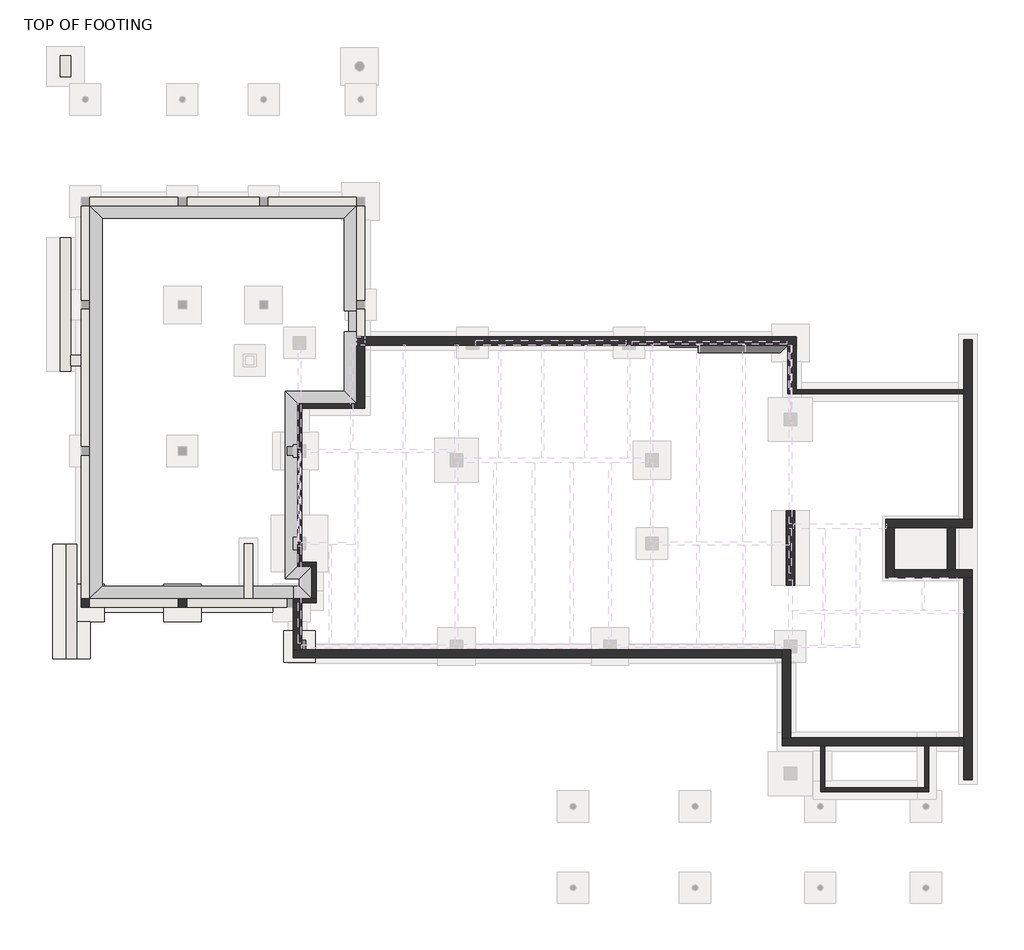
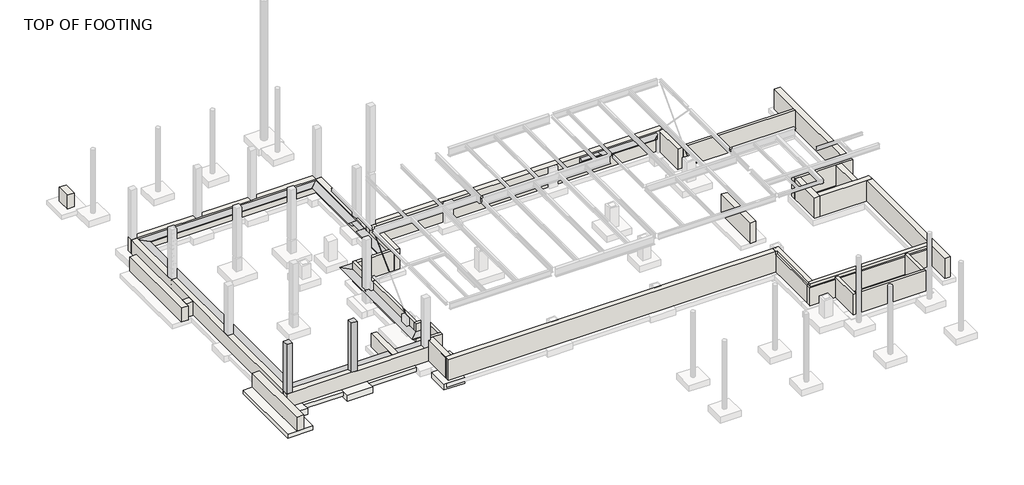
# One storey, part 1 of 5: 32 walls, 8 proxies, 3 slabs, 2 columns, 2 footings.
"""IFC4 building model written with IfcOpenShell, lengths in millimetres."""

from ifc_helpers import new_model, si_unit, frame, origin, place, context, project, spatial, polyline, outline, extrude, faceted_brep, element, save

model = new_model("IFC4")

# Units and contexts
model_context = context("Model", 3, world=origin())
ifc_project = project(units=[si_unit("LENGTHUNIT", "METRE", prefix="MILLI")], contexts=[model_context])

# Site, building, storey
site = spatial("IfcSite", under=ifc_project)
building = spatial("IfcBuilding", under=site)
storey = spatial("IfcBuildingStorey", under=building, Name="TOP OF FOOTING", Elevation=28905.2)

# Proxies
placement = place(None, origin())
element("IfcBuildingElementProxy", 1, Name="Thickened 24\" x 12\"", ObjectType="Thickened 24\" x 12\"", at=placement, inside=storey, context=model_context, shape_type="Brep", body=[
    faceted_brep([(-20560.3454607, 14520.2695005, 29565.6), (-20560.3454607, 14520.2695005, 29870.4), (-19950.7454607, 13910.6695005, 29870.4), (-20255.5454607, 14215.4695005, 29565.6), (-20560.3454607, -4618.6304995, 29565.6), (-20255.5454607, -4313.8304995, 29565.6), (-19950.7454607, -4009.0304995, 29870.4), (-20560.3454607, -4618.6304995, 29870.4)], [[[0, 1, 2, 3]], [[4, 5, 6, 7]], [[1, 0, 4, 7]], [[2, 1, 7, 6]], [[3, 2, 6, 5]], [[0, 3, 5, 4]]]),
])
element("IfcBuildingElementProxy", 2, Name="Thickened 24\" x 12\"", ObjectType="Thickened 24\" x 12\"", at=placement, inside=storey, context=model_context, shape_type="Brep", body=[
    faceted_brep([(-7555.5454607, 9402.1695005, 29565.6), (-7555.5454607, 9402.1695005, 29870.4), (-7923.8454607, 9402.1695005, 29870.4), (-8165.1454607, 9402.1695005, 29870.4), (-7860.3454607, 9402.1695005, 29565.6), (-7619.0454607, 9402.1695005, 29565.6), (-7555.5454607, 14520.2695005, 29565.6), (-7860.3454607, 14215.4695005, 29565.6), (-8165.1454607, 13910.6695005, 29870.4), (-7555.5454607, 14520.2695005, 29870.4)], [[[0, 1, 2, 3, 4, 5]], [[6, 7, 8, 9]], [[1, 0, 6, 9]], [[3, 2, 1, 9, 8]], [[4, 3, 8, 7]], [[0, 5, 4, 7, 6]]]),
])
element("IfcBuildingElementProxy", 3, Name="Thickened 24\" x 12\"", ObjectType="Thickened 24\" x 12\"", at=placement, inside=storey, context=model_context, shape_type="Brep", body=[
    faceted_brep([(-20560.3454607, -4618.6304995, 29565.6), (-20560.3454607, -4618.6304995, 29870.4), (-19950.7454607, -4009.0304995, 29870.4), (-20255.5454607, -4313.8304995, 29565.6), (-10632.1204607, -4618.6304995, 29565.6), (-10632.1204607, -4313.8304995, 29565.6), (-10632.1204607, -4009.0304995, 29870.4), (-10632.1204607, -4618.6304995, 29870.4)], [[[0, 1, 2, 3]], [[4, 5, 6, 7]], [[1, 0, 4, 7]], [[2, 1, 7, 6]], [[3, 2, 6, 5]], [[0, 3, 5, 4]]]),
])
element("IfcBuildingElementProxy", 4, Name="Thickened 24\" x 12\"", ObjectType="Thickened 24\" x 12\"", at=placement, inside=storey, context=model_context, shape_type="Brep", body=[
    faceted_brep([(-10428.9204607, -3040.6554995, 29565.6), (-10428.9204607, -3040.6554995, 29870.4), (-11038.5204607, -3650.2554995, 29870.4), (-10733.7204607, -3345.4554995, 29565.6), (-10428.9204607, 4865.0945005, 29565.6), (-10428.9204607, 4865.0945005, 29870.4), (-11038.5204607, 5474.6945005, 29870.4), (-10733.7204607, 5169.8945005, 29565.6), (-7555.5454607, 4865.0945005, 29565.6), (-7860.3454607, 5169.8945005, 29565.6), (-8165.1454607, 5474.6945005, 29870.4), (-7555.5454607, 4865.0945005, 29870.4)], [[[0, 1, 2, 3]], [[1, 0, 4, 5]], [[2, 1, 5, 6]], [[3, 2, 6, 7]], [[0, 3, 7, 4]], [[8, 9, 10, 11]], [[5, 4, 8, 11]], [[6, 5, 11, 10]], [[7, 6, 10, 9]], [[4, 7, 9, 8]]]),
])
element("IfcBuildingElementProxy", 5, Name="Thickened 24\" x 12\"", ObjectType="Thickened 24\" x 12\"", at=placement, inside=storey, context=model_context, shape_type="Brep", body=[
    faceted_brep([(13450.2545393, 7725.7695005, 30048.2), (13450.2545393, 7725.7695005, 30353.0), (12840.6545393, 7116.1695005, 30353.0), (13145.4545393, 7420.9695005, 30048.2), (9071.9295393, 7725.7695005, 30353.0), (9071.9295393, 7725.7695005, 30048.2), (9071.9295393, 7420.9695005, 30048.2), (9071.9295393, 7116.1695005, 30353.0)], [[[0, 1, 2, 3]], [[4, 5, 6, 7]], [[1, 0, 5, 4]], [[2, 1, 4, 7]], [[3, 2, 7, 6]], [[0, 3, 6, 5]]]),
    faceted_brep([(9071.9295393, 7992.4695005, 30048.2), (9071.9295393, 7992.4695005, 30353.0), (9071.9295393, 7725.7695005, 30353.0), (9071.9295393, 7382.8695005, 30353.0), (9071.9295393, 7687.6695005, 30048.2), (7700.3295393, 7992.4695005, 30353.0), (7700.3295393, 7992.4695005, 30048.2), (7700.3295393, 7725.7695005, 30048.2), (7700.3295393, 7687.6695005, 30048.2), (7700.3295393, 7382.8695005, 30353.0), (7700.3295393, 7725.7695005, 30353.0)], [[[0, 1, 2, 3, 4]], [[5, 6, 7, 8, 9, 10]], [[1, 0, 6, 5]], [[3, 2, 1, 5, 10, 9]], [[4, 3, 9, 8]], [[0, 4, 8, 7, 6]]]),
    faceted_brep([(-7555.5454607, 4865.0945005, 29565.6), (-7555.5454607, 4865.0945005, 29870.4), (-8165.1454607, 5474.6945005, 29870.4), (-7860.3454607, 5169.8945005, 29565.6), (-7555.5454607, 8386.1695005, 29870.4), (-7555.5454607, 8386.1695005, 29565.6), (-7860.3454607, 8386.1695005, 29565.6), (-8165.1454607, 8386.1695005, 29870.4)], [[[0, 1, 2, 3]], [[4, 5, 6, 7]], [[1, 0, 5, 4]], [[2, 1, 4, 7]], [[3, 2, 7, 6]], [[0, 3, 6, 5]]]),
    faceted_brep([(-7314.2454607, 8386.1695005, 29565.6), (-7314.2454607, 8386.1695005, 29870.4), (-7555.5454607, 8386.1695005, 29870.4), (-7923.8454607, 8386.1695005, 29870.4), (-7619.0454607, 8386.1695005, 29565.6), (-7314.2454607, 9402.1695005, 29870.4), (-7314.2454607, 9402.1695005, 29565.6), (-7555.5454607, 9402.1695005, 29565.6), (-7619.0454607, 9402.1695005, 29565.6), (-7923.8454607, 9402.1695005, 29870.4), (-7555.5454607, 9402.1695005, 29870.4)], [[[0, 1, 2, 3, 4]], [[5, 6, 7, 8, 9, 10]], [[1, 0, 6, 5]], [[1, 5, 10, 9, 3, 2]], [[4, 3, 9, 8]], [[0, 4, 8, 7, 6]]]),
    faceted_brep([(-7555.5454607, 14520.2695005, 29565.6), (-7555.5454607, 14520.2695005, 29870.4), (-8165.1454607, 13910.6695005, 29870.4), (-7860.3454607, 14215.4695005, 29565.6), (-20560.3454607, 14520.2695005, 29870.4), (-20560.3454607, 14520.2695005, 29565.6), (-20255.5454607, 14215.4695005, 29565.6), (-19950.7454607, 13910.6695005, 29870.4)], [[[0, 1, 2, 3]], [[4, 5, 6, 7]], [[1, 0, 5, 4]], [[2, 1, 4, 7]], [[3, 2, 7, 6]], [[0, 3, 6, 5]]]),
])
element("IfcBuildingElementProxy", 6, Name="Thickened 24\" x 12\"", ObjectType="Thickened 24\" x 12\"", at=placement, inside=storey, context=model_context, shape_type="Brep", body=[
    faceted_brep([(-10632.1204607, -4618.6304995, 29565.6), (-10632.1204607, -4618.6304995, 29870.4), (-10632.1204607, -4009.0304995, 29870.4), (-10632.1204607, -4313.8304995, 29565.6), (-9727.2454607, -4618.6304995, 29565.6), (-10032.0454607, -4313.8304995, 29565.6), (-10336.8454607, -4009.0304995, 29870.4), (-9727.2454607, -4618.6304995, 29870.4)], [[[0, 1, 2, 3]], [[4, 5, 6, 7]], [[1, 0, 4, 7]], [[2, 1, 7, 6]], [[3, 2, 6, 5]], [[0, 3, 5, 4]]]),
])
element("IfcBuildingElementProxy", 7, Name="Thickened 24\" x 12\"", ObjectType="Thickened 24\" x 12\"", at=placement, inside=storey, context=model_context, shape_type="Brep", body=[
    faceted_brep([(-9727.2454607, -4618.6304995, 29565.6), (-9727.2454607, -4618.6304995, 29870.4), (-10336.8454607, -4009.0304995, 29870.4), (-10032.0454607, -4313.8304995, 29565.6), (-9727.2454607, -3040.6554995, 29565.6), (-10032.0454607, -3345.4554995, 29565.6), (-10336.8454607, -3650.2554995, 29870.4), (-9727.2454607, -3040.6554995, 29870.4)], [[[0, 1, 2, 3]], [[4, 5, 6, 7]], [[1, 0, 4, 7]], [[2, 1, 7, 6]], [[3, 2, 6, 5]], [[0, 3, 5, 4]]]),
])
element("IfcBuildingElementProxy", 8, Name="Thickened 24\" x 12\"", ObjectType="Thickened 24\" x 12\"", at=placement, inside=storey, context=model_context, shape_type="Brep", body=[
    faceted_brep([(-9727.2454607, -3040.6554995, 29565.6), (-9727.2454607, -3040.6554995, 29870.4), (-10336.8454607, -3650.2554995, 29870.4), (-10032.0454607, -3345.4554995, 29565.6), (-10428.9204607, -3040.6554995, 29565.6), (-10733.7204607, -3345.4554995, 29565.6), (-11038.5204607, -3650.2554995, 29870.4), (-10428.9204607, -3040.6554995, 29870.4)], [[[0, 1, 2, 3]], [[4, 5, 6, 7]], [[1, 0, 4, 7]], [[2, 1, 7, 6]], [[3, 2, 6, 5]], [[0, 3, 5, 4]]]),
])

# Columns
element("IfcColumn", 9, ObjectType="Concrete-Rectangular-Column : 16 x 16", at=placement, inside=storey, context=model_context, shape_type="Brep", body=[
    faceted_brep([(-20560.3454607, -4618.6304995, 33782.0), (-20560.3454607, -5025.0304995, 33782.0), (-20560.3454607, -5025.0304995, 29972.0), (-20560.3454607, -4618.6304995, 29972.0), (-20966.7454607, -5025.0304995, 33782.0), (-20966.7454607, -5025.0304995, 29972.0), (-20966.7454607, -4720.2304995, 33782.0), (-20966.7454607, -4618.6304995, 33782.0), (-20966.7454607, -4618.6304995, 29972.0)], [[[0, 1, 2, 3]], [[1, 4, 5, 2]], [[4, 6, 7, 8, 5]], [[7, 0, 3, 8]], [[1, 0, 7, 6, 4]], [[3, 2, 5, 8]]]),
])
element("IfcColumn", 10, ObjectType="Concrete-Rectangular-Column : 16 x 16", at=placement, inside=storey, context=model_context, shape_type="SweptSolid", body=[
    extrude(outline(polyline([(-15835.9454607, -4618.6304995), (-15835.9454607, -5025.0304995), (-16242.3454607, -5025.0304995), (-16242.3454607, -4618.6304995), (-15835.9454607, -4618.6304995)])), frame((0.0, 0.0, 29972.0), z_axis=(0.0, 0.0, 1.0), x_axis=(1.0, 0.0, 0.0)), (0.0, 0.0, 1.0), 3810.0),
])

# Footings
element("IfcFooting", 11, ObjectType="Bearing Footing - 36\" x 12\"", at=placement, inside=storey, context=model_context, shape_type="Brep", body=[
    faceted_brep([(-19849.1454607, -4364.6304995, 28905.2), (-19849.1454607, -5279.0304995, 28905.2), (-16953.5454607, -5279.0304995, 28905.2), (-16953.5454607, -4364.6304995, 28905.2), (-19849.1454607, -5279.0304995, 28600.4), (-16953.5454607, -5279.0304995, 28600.4), (-19849.1454607, -4364.6304995, 28600.4), (-16953.5454607, -4364.6304995, 28600.4)], [[[0, 1, 2, 3]], [[1, 4, 5, 2]], [[4, 6, 7, 5]], [[6, 0, 3, 7]], [[1, 0, 6, 4]], [[3, 2, 5, 7]]]),
    faceted_brep([(-15124.7454607, -4364.6304995, 28905.2), (-15124.7454607, -5279.0304995, 28905.2), (-11647.3763201, -5279.0304995, 28905.2), (-11647.3763201, -4364.6304995, 28905.2), (-12354.5579607, -4364.6304995, 28905.2), (-13268.9579607, -4364.6304995, 28905.2), (-15124.7454607, -5279.0304995, 28600.4), (-11647.3763201, -5279.0304995, 28600.4), (-15124.7454607, -4364.6304995, 28600.4), (-13268.9579607, -4364.6304995, 28600.4), (-12354.5579607, -4364.6304995, 28600.4), (-11647.3763201, -4364.6304995, 28600.4)], [[[0, 1, 2, 3, 4, 5]], [[1, 6, 7, 2]], [[6, 8, 9, 10, 11, 7]], [[8, 0, 5, 4, 3, 11, 10, 9]], [[1, 0, 8, 6]], [[3, 2, 7, 11]]]),
])
element("IfcFooting", 12, ObjectType="Bearing Footing - 72\" x 12\" 2", at=placement, inside=storey, context=model_context, shape_type="SweptSolid", body=[
    extrude(outline(polyline([(-20517.4622482, -7552.3304995), (-22346.2622482, -7552.3304995), (-22346.2622482, -1964.3304995), (-21220.7454607, -1964.3304995), (-21220.7454607, -3907.4304995), (-21677.9454607, -3907.4304995), (-21677.9454607, -5736.2304995), (-20517.4622482, -5736.2304995), (-20517.4622482, -7552.3304995)])), frame((0.0, 0.0, 28600.4), z_axis=(0.0, 0.0, 1.0), x_axis=(1.0, 0.0, 0.0)), (0.0, 0.0, 1.0), 304.8),
])

# Slabs
element("IfcSlab", 13, ObjectType="Footing-Rectangular : 6'-0\" x 6'-0\" x 1'-6\"", at=placement, inside=storey, context=model_context, shape_type="Brep", body=[
    faceted_brep([(-19849.1454607, -3907.4304995, 28905.2), (-20306.3454607, -3907.4304995, 28905.2), (-21220.7454607, -3907.4304995, 28905.2), (-21677.9454607, -3907.4304995, 28905.2), (-21677.9454607, -5736.2304995, 28905.2), (-20517.4622482, -5736.2304995, 28905.2), (-19849.1454607, -5736.2304995, 28905.2), (-19849.1454607, -5279.0304995, 28905.2), (-19849.1454607, -4364.6304995, 28905.2), (-19849.1454607, -3907.4304995, 28448.0), (-19849.1454607, -5736.2304995, 28448.0), (-21677.9454607, -5736.2304995, 28448.0), (-21677.9454607, -3907.4304995, 28448.0), (-21677.9454607, -3907.4304995, 28600.4), (-21677.9454607, -5736.2304995, 28600.4)], [[[0, 1, 2, 3, 4, 5, 6, 7, 8]], [[9, 10, 11, 12]], [[3, 2, 1, 0, 9, 12, 13]], [[4, 3, 13, 12, 11, 14]], [[6, 5, 4, 14, 11, 10]], [[0, 8, 7, 6, 10, 9]]]),
])
element("IfcSlab", 14, ObjectType="Footing-Rectangular : 6'-0\" x 6'-0\" x 1'-6\"", at=placement, inside=storey, context=model_context, shape_type="Brep", body=[
    faceted_brep([(-15124.7454607, -3907.4304995, 28905.2), (-16953.5454607, -3907.4304995, 28905.2), (-16953.5454607, -4364.6304995, 28905.2), (-16953.5454607, -5279.0304995, 28905.2), (-16953.5454607, -5736.2304995, 28905.2), (-15124.7454607, -5736.2304995, 28905.2), (-15124.7454607, -5279.0304995, 28905.2), (-15124.7454607, -4364.6304995, 28905.2), (-15124.7454607, -3907.4304995, 28448.0), (-15124.7454607, -5736.2304995, 28448.0), (-16953.5454607, -5736.2304995, 28448.0), (-16953.5454607, -3907.4304995, 28448.0)], [[[0, 1, 2, 3, 4, 5, 6, 7]], [[8, 9, 10, 11]], [[1, 0, 8, 11]], [[4, 3, 2, 1, 11, 10]], [[5, 4, 10, 9]], [[0, 7, 6, 5, 9, 8]]]),
])
element("IfcSlab", 15, ObjectType="Footing-Rectangular_With_Pier : F1 - 5'-0\" x 5'-0\" x 1'-6\"", at=placement, inside=storey, context=model_context, shape_type="SolidModel", body=[
    extrude(outline(polyline([(-10022.5204607, -6637.9304995), (-10022.5204607, -7247.5304995), (-10632.1204607, -7247.5304995), (-10632.1204607, -6637.9304995), (-10022.5204607, -6637.9304995)])), frame((0.0, 0.0, 28905.2), z_axis=(0.0, 0.0, 1.0), x_axis=(1.0, 0.0, 0.0)), (0.0, 0.0, 1.0), 1549.4),
    faceted_brep([(-9565.3204607, -6180.7304995, 28905.2), (-9971.7204607, -6180.7304995, 28905.2), (-10886.1204607, -6180.7304995, 28905.2), (-11089.3204607, -6180.7304995, 28905.2), (-11089.3204607, -7704.7304995, 28905.2), (-10886.1204607, -7704.7304995, 28905.2), (-9565.3204607, -7704.7304995, 28905.2), (-9565.3204607, -6841.1304995, 28905.2), (-9565.3204607, -6180.7304995, 28448.0), (-9565.3204607, -7704.7304995, 28448.0), (-11089.3204607, -7704.7304995, 28448.0), (-11089.3204607, -6180.7304995, 28448.0), (-9565.3204607, -7704.7304995, 28600.4)], [[[0, 1, 2, 3, 4, 5, 6, 7]], [[8, 9, 10, 11]], [[3, 2, 1, 0, 8, 11]], [[4, 3, 11, 10]], [[6, 5, 4, 10, 9, 12]], [[0, 7, 6, 12, 9, 8]]]),
])

# Walls
element("IfcWall", 16, ObjectType="Foundation - 16\" Concrete", at=placement, inside=storey, context=model_context, shape_type="Brep", body=[
    faceted_brep([(-7555.5454607, 7725.7695005, 28905.2), (-7149.1454607, 7725.7695005, 28905.2), (13450.2545393, 7725.7695005, 28905.2), (13856.6545393, 7725.7695005, 28905.2), (13856.6545393, 7725.7695005, 30480.0), (13450.2545393, 7725.7695005, 30480.0), (-7149.1454607, 7725.7695005, 30480.0), (-7555.5454607, 7725.7695005, 30480.0), (-7555.5454607, 8132.1695005, 28905.2), (-7555.5454607, 8132.1695005, 29972.0), (-7555.5454607, 8132.1695005, 30480.0), (-7149.1454607, 8132.1695005, 30480.0), (13856.6545393, 8132.1695005, 30480.0), (13856.6545393, 8132.1695005, 28905.2), (-7149.1454607, 8132.1695005, 28905.2)], [[[0, 1, 2, 3, 4, 5, 6, 7]], [[8, 9, 10, 11, 12, 13, 14]], [[3, 2, 1, 0, 8, 14, 13]], [[7, 6, 5, 4, 12, 11, 10]], [[4, 3, 13, 12]], [[0, 7, 10, 9, 8]]]),
])
element("IfcWall", 17, ObjectType="Foundation - 16\" Concrete", at=placement, inside=storey, context=model_context, shape_type="Brep", body=[
    faceted_brep([(13450.2545393, 7725.7695005, 28905.2), (13450.2545393, 5350.8695005, 28905.2), (13450.2545393, 5350.8695005, 30480.0), (13450.2545393, 7725.7695005, 30480.0), (13856.6545393, 7725.7695005, 28905.2), (13856.6545393, 7725.7695005, 30480.0), (13856.6545393, 5554.0695005, 30480.0), (13856.6545393, 5350.8695005, 30480.0), (13856.6545393, 5350.8695005, 28905.2), (13856.6545393, 5554.0695005, 28905.2)], [[[0, 1, 2, 3]], [[4, 5, 6, 7, 8, 9]], [[1, 0, 4, 9, 8]], [[3, 2, 7, 6, 5]], [[0, 3, 5, 4]], [[2, 1, 8, 7]]]),
])
element("IfcWall", 18, ObjectType="Foundation - 16\" Concrete", at=placement, inside=storey, context=model_context, shape_type="Brep", body=[
    faceted_brep([(22019.578935, 7995.5948911, 28905.2), (22019.578935, 5554.0695005, 28905.2), (22019.578935, 5350.8695005, 28905.2), (22019.578935, -757.8304995, 28905.2), (22019.578935, -757.8304995, 30480.0), (22019.578935, 5350.8695005, 30480.0), (22019.578935, 5554.0695005, 30480.0), (22019.578935, 7995.5948911, 30480.0), (22425.978935, 7995.5948911, 28905.2), (22425.978935, 7995.5948911, 30480.0), (22425.978935, -757.8304995, 30480.0), (22425.978935, -757.8304995, 28905.2)], [[[0, 1, 2, 3, 4, 5, 6, 7]], [[8, 9, 10, 11]], [[3, 2, 1, 0, 8, 11]], [[7, 6, 5, 4, 10, 9]], [[0, 7, 9, 8]], [[4, 3, 11, 10]]]),
])
element("IfcWall", 19, ObjectType="Foundation - 16\" Concrete", at=placement, inside=storey, context=model_context, shape_type="Brep", body=[
    faceted_brep([(13177.2045393, -7095.1304995, 28905.2), (-10225.7204607, -7095.1304995, 28905.2), (-10632.1204607, -7095.1304995, 28905.2), (-10632.1204607, -7095.1304995, 30480.0), (-10225.7204607, -7095.1304995, 30480.0), (13177.2045393, -7095.1304995, 30480.0), (13177.2045393, -7501.5304995, 28905.2), (13177.2045393, -7501.5304995, 30276.8), (13177.2045393, -7501.5304995, 30480.0), (-10632.1204607, -7501.5304995, 30480.0), (-10632.1204607, -7501.5304995, 28905.2)], [[[0, 1, 2, 3, 4, 5]], [[6, 7, 8, 9, 10]], [[2, 1, 0, 6, 10]], [[5, 4, 3, 9, 8]], [[3, 2, 10, 9]], [[0, 5, 8, 7, 6]]]),
])
element("IfcWall", 20, ObjectType="Foundation - 16\" Concrete", at=placement, inside=storey, context=model_context, shape_type="Brep", body=[
    faceted_brep([(-10225.7204607, -7095.1304995, 28905.2), (-10225.7204607, -4821.8304995, 28905.2), (-10225.7204607, -4821.8304995, 30480.0), (-10225.7204607, -7095.1304995, 30480.0), (-10632.1204607, -7095.1304995, 28905.2), (-10632.1204607, -7095.1304995, 30480.0), (-10632.1204607, -5025.0304995, 30480.0), (-10632.1204607, -4821.8304995, 30480.0), (-10632.1204607, -4821.8304995, 28905.2)], [[[0, 1, 2, 3]], [[4, 5, 6, 7, 8]], [[1, 0, 4, 8]], [[3, 2, 7, 6, 5]], [[0, 3, 5, 4]], [[2, 1, 8, 7]]]),
])
element("IfcWall", 21, ObjectType="Foundation - 16\" Concrete", at=placement, inside=storey, context=model_context, shape_type="Brep", body=[
    faceted_brep([(22425.978935, -757.8304995, 28905.2), (22019.578935, -757.8304995, 28905.2), (18219.8486799, -757.8304995, 28905.2), (18219.8486799, -757.8304995, 30480.0), (22019.578935, -757.8304995, 30480.0), (22425.978935, -757.8304995, 30480.0), (22425.978935, -1164.2304995, 28905.2), (22425.978935, -1164.2304995, 30480.0), (21605.9861799, -1164.2304995, 30480.0), (21199.5861799, -1164.2304995, 30480.0), (18626.2486799, -1164.2304995, 30480.0), (18219.8486799, -1164.2304995, 30480.0), (18219.8486799, -1164.2304995, 28905.2), (18626.2486799, -1164.2304995, 28905.2), (21199.5861799, -1164.2304995, 28905.2), (21605.9861799, -1164.2304995, 28905.2)], [[[0, 1, 2, 3, 4, 5]], [[6, 7, 8, 9, 10, 11, 12, 13, 14, 15]], [[2, 1, 0, 6, 15, 14, 13, 12]], [[5, 4, 3, 11, 10, 9, 8, 7]], [[0, 5, 7, 6]], [[3, 2, 12, 11]]]),
])
element("IfcWall", 22, ObjectType="Foundation - 16\" Concrete", at=placement, inside=storey, context=model_context, shape_type="Brep", body=[
    faceted_brep([(-20966.7454607, 14520.2695005, 28905.2), (-20560.3454607, 14520.2695005, 28905.2), (-7555.5454607, 14520.2695005, 28905.2), (-7149.1454607, 14520.2695005, 28905.2), (-7149.1454607, 14520.2695005, 29972.0), (-7555.5454607, 14520.2695005, 29972.0), (-11873.5454607, 14520.2695005, 29972.0), (-12279.9454607, 14520.2695005, 29972.0), (-15835.9454607, 14520.2695005, 29972.0), (-16242.3454607, 14520.2695005, 29972.0), (-20560.3454607, 14520.2695005, 29972.0), (-20966.7454607, 14520.2695005, 29972.0), (-20966.7454607, 14926.6695005, 28905.2), (-20966.7454607, 14926.6695005, 29972.0), (-20560.3454607, 14926.6695005, 29972.0), (-16242.3454607, 14926.6695005, 29972.0), (-15835.9454607, 14926.6695005, 29972.0), (-12279.9454607, 14926.6695005, 29972.0), (-11873.5454607, 14926.6695005, 29972.0), (-7555.5454607, 14926.6695005, 29972.0), (-7149.1454607, 14926.6695005, 29972.0), (-7149.1454607, 14926.6695005, 28905.2)], [[[0, 1, 2, 3, 4, 5, 6, 7, 8, 9, 10, 11]], [[12, 13, 14, 15, 16, 17, 18, 19, 20, 21]], [[3, 2, 1, 0, 12, 21]], [[11, 10, 9, 8, 7, 6, 5, 4, 20, 19, 18, 17, 16, 15, 14, 13]], [[4, 3, 21, 20]], [[0, 11, 13, 12]]]),
])
element("IfcWall", 23, ObjectType="Foundation - 16\" Concrete", at=placement, inside=storey, context=model_context, shape_type="Brep", body=[
    faceted_brep([(-7555.5454607, 14520.2695005, 28905.2), (-7555.5454607, 8132.1695005, 28905.2), (-7555.5454607, 8132.1695005, 29972.0), (-7555.5454607, 9491.0695005, 29972.0), (-7555.5454607, 9897.4695005, 29972.0), (-7555.5454607, 14520.2695005, 29972.0), (-7149.1454607, 14520.2695005, 28905.2), (-7149.1454607, 14520.2695005, 29972.0), (-7149.1454607, 9897.4695005, 29972.0), (-7149.1454607, 9491.0695005, 29972.0), (-7149.1454607, 8132.1695005, 29972.0), (-7149.1454607, 8132.1695005, 28905.2)], [[[0, 1, 2, 3, 4, 5]], [[6, 7, 8, 9, 10, 11]], [[1, 0, 6, 11]], [[5, 4, 3, 2, 10, 9, 8, 7]], [[0, 5, 7, 6]], [[2, 1, 11, 10]]]),
])
element("IfcWall", 24, ObjectType="Foundation - 16\" Concrete", at=placement, inside=storey, context=model_context, shape_type="Brep", body=[
    faceted_brep([(-10632.1204607, -4618.6304995, 28905.2), (-12608.5579607, -4618.6304995, 28905.2), (-13014.9579607, -4618.6304995, 28905.2), (-20560.3454607, -4618.6304995, 28905.2), (-20966.7454607, -4618.6304995, 28905.2), (-20966.7454607, -4618.6304995, 29972.0), (-20560.3454607, -4618.6304995, 29972.0), (-16242.3454607, -4618.6304995, 29972.0), (-15835.9454607, -4618.6304995, 29972.0), (-13014.9579607, -4618.6304995, 29972.0), (-12608.5579607, -4618.6304995, 29972.0), (-10936.1763201, -4618.6304995, 29972.0), (-10632.1204607, -4618.6304995, 29972.0), (-10632.1204607, -5025.0304995, 28905.2), (-10632.1204607, -5025.0304995, 29972.0), (-10936.1763201, -5025.0304995, 29972.0), (-15835.9454607, -5025.0304995, 29972.0), (-16242.3454607, -5025.0304995, 29972.0), (-20560.3454607, -5025.0304995, 29972.0), (-20966.7454607, -5025.0304995, 29972.0), (-20966.7454607, -5025.0304995, 28905.2)], [[[0, 1, 2, 3, 4, 5, 6, 7, 8, 9, 10, 11, 12]], [[13, 14, 15, 16, 17, 18, 19, 20]], [[4, 3, 2, 1, 0, 13, 20]], [[12, 11, 10, 9, 8, 7, 6, 5, 19, 18, 17, 16, 15, 14]], [[0, 12, 14, 13]], [[5, 4, 20, 19]]]),
])
element("IfcWall", 25, ObjectType="Foundation - 16\" Concrete", at=placement, inside=storey, context=model_context, shape_type="Brep", body=[
    faceted_brep([(-20560.3454607, -4618.6304995, 28905.2), (-20560.3454607, 14520.2695005, 28905.2), (-20560.3454607, 14520.2695005, 29972.0), (-20560.3454607, 9897.4695005, 29972.0), (-20560.3454607, 9491.0695005, 29972.0), (-20560.3454607, 2785.4695005, 29972.0), (-20560.3454607, 2379.0695005, 29972.0), (-20560.3454607, -4618.6304995, 29972.0), (-20966.7454607, -4618.6304995, 28905.2), (-20966.7454607, -4618.6304995, 29972.0), (-20966.7454607, 2379.0695005, 29972.0), (-20966.7454607, 2785.4695005, 29972.0), (-20966.7454607, 6722.4695005, 29972.0), (-20966.7454607, 7230.4695005, 29972.0), (-20966.7454607, 9491.0695005, 29972.0), (-20966.7454607, 9897.4695005, 29972.0), (-20966.7454607, 14520.2695005, 29972.0), (-20966.7454607, 14520.2695005, 28905.2), (-20966.7454607, 7230.4695005, 28905.2), (-20966.7454607, 6722.4695005, 28905.2)], [[[0, 1, 2, 3, 4, 5, 6, 7]], [[8, 9, 10, 11, 12, 13, 14, 15, 16, 17, 18, 19]], [[1, 0, 8, 19, 18, 17]], [[7, 6, 5, 4, 3, 2, 16, 15, 14, 13, 12, 11, 10, 9]], [[0, 7, 9, 8]], [[2, 1, 17, 16]]]),
])
element("IfcWall", 26, ObjectType="Foundation - 16\" Concrete", at=placement, inside=storey, context=model_context, shape_type="Brep", body=[
    faceted_brep([(-7555.5454607, 7725.7695005, 30480.0), (-7555.5454607, 7725.7695005, 28905.2), (-7555.5454607, 4865.0945005, 28905.2), (-7555.5454607, 4661.8945005, 28905.2), (-7555.5454607, 4661.8945005, 30480.0), (-7555.5454607, 4865.0945005, 30480.0), (-7149.1454607, 7725.7695005, 28905.2), (-7149.1454607, 7725.7695005, 30480.0), (-7149.1454607, 4661.8945005, 30480.0), (-7149.1454607, 4661.8945005, 28905.2)], [[[0, 1, 2, 3, 4, 5]], [[6, 7, 8, 9]], [[3, 2, 1, 6, 9]], [[0, 5, 4, 8, 7]], [[4, 3, 9, 8]], [[0, 7, 6, 1]]]),
])
element("IfcWall", 27, ObjectType="Foundation - 16\" Concrete", at=placement, inside=storey, context=model_context, shape_type="Brep", body=[
    faceted_brep([(18626.2486799, -3602.6304995, 28905.2), (18626.2486799, -3196.2304995, 28905.2), (18626.2486799, -1164.2304995, 28905.2), (18626.2486799, -1164.2304995, 30480.0), (18626.2486799, -3196.2304995, 30480.0), (18626.2486799, -3602.6304995, 30480.0), (18219.8486799, -3602.6304995, 28905.2), (18219.8486799, -3602.6304995, 30480.0), (18219.8486799, -1164.2304995, 30480.0), (18219.8486799, -1164.2304995, 28905.2)], [[[0, 1, 2, 3, 4, 5]], [[6, 7, 8, 9]], [[2, 1, 0, 6, 9]], [[5, 4, 3, 8, 7]], [[0, 5, 7, 6]], [[3, 2, 9, 8]]]),
])
element("IfcWall", 28, ObjectType="Foundation - 16\" Concrete", at=placement, inside=storey, context=model_context, shape_type="Brep", body=[
    faceted_brep([(18626.2486799, -3602.6304995, 28905.2), (22019.578935, -3602.6304995, 28905.2), (22425.978935, -3602.6304995, 28905.2), (22425.978935, -3602.6304995, 30480.0), (22019.578935, -3602.6304995, 30480.0), (18626.2486799, -3602.6304995, 30480.0), (18626.2486799, -3196.2304995, 28905.2), (18626.2486799, -3196.2304995, 30480.0), (21199.5861799, -3196.2304995, 30480.0), (21605.9861799, -3196.2304995, 30480.0), (22425.978935, -3196.2304995, 30480.0), (22425.978935, -3196.2304995, 28905.2), (21605.9861799, -3196.2304995, 28905.2), (21199.5861799, -3196.2304995, 28905.2)], [[[0, 1, 2, 3, 4, 5]], [[6, 7, 8, 9, 10, 11, 12, 13]], [[2, 1, 0, 6, 13, 12, 11]], [[5, 4, 3, 10, 9, 8, 7]], [[0, 5, 7, 6]], [[3, 2, 11, 10]]]),
])
element("IfcWall", 29, ObjectType="Foundation - 16\" Concrete", at=placement, inside=storey, context=model_context, shape_type="SweptSolid", body=[
    extrude(outline(polyline([(21605.9861799, -1164.2304995), (21605.9861799, -3196.2304995), (21199.5861799, -3196.2304995), (21199.5861799, -1164.2304995), (21605.9861799, -1164.2304995)])), frame((0.0, 0.0, 28905.2), z_axis=(0.0, 0.0, 1.0), x_axis=(1.0, 0.0, 0.0)), (0.0, 0.0, 1.0), 1574.8),
])
element("IfcWall", 30, ObjectType="Foundation - 16\" Concrete", at=placement, inside=storey, context=model_context, shape_type="SweptSolid", body=[
    extrude(outline(polyline([(-12608.5579607, -1935.7554995), (-12608.5579607, -4618.6304995), (-13014.9579607, -4618.6304995), (-13014.9579607, -1935.7554995), (-12608.5579607, -1935.7554995)])), frame((0.0, 0.0, 28905.2), z_axis=(0.0, 0.0, 1.0), x_axis=(1.0, 0.0, 0.0)), (0.0, 0.0, 1.0), 1066.8),
])
element("IfcWall", 31, ObjectType="Foundation - 16\" Concrete", at=placement, inside=storey, context=model_context, shape_type="Brep", body=[
    faceted_brep([(22019.578935, -3602.6304995, 28905.2), (22019.578935, -11381.3804995, 28905.2), (22019.578935, -11787.7804995, 28905.2), (22019.578935, -13445.1304995, 28905.2), (22019.578935, -13445.1304995, 30480.0), (22019.578935, -11686.1804995, 30480.0), (22019.578935, -11381.3804995, 30480.0), (22019.578935, -3602.6304995, 30480.0), (22425.978935, -3602.6304995, 28905.2), (22425.978935, -3602.6304995, 30480.0), (22425.978935, -13445.1304995, 30480.0), (22425.978935, -13445.1304995, 28905.2)], [[[0, 1, 2, 3, 4, 5, 6, 7]], [[8, 9, 10, 11]], [[3, 2, 1, 0, 8, 11]], [[4, 3, 11, 10]], [[7, 6, 5, 4, 10, 9]], [[0, 7, 9, 8]]]),
])
element("IfcWall", 32, ObjectType="Foundation - 16\" Concrete", at=placement, inside=storey, context=model_context, shape_type="SweptSolid", body=[
    extrude(outline(polyline([(13364.5295393, -3958.2304995), (13364.5295393, -326.0304995), (13770.9295393, -326.0304995), (13770.9295393, -3958.2304995), (13364.5295393, -3958.2304995)])), frame((0.0, 0.0, 28905.2), z_axis=(0.0, 0.0, 1.0), x_axis=(1.0, 0.0, 0.0)), (0.0, 0.0, 1.0), 1574.8),
])
element("IfcWall", 33, ObjectType="Foundation - 16\" Concrete w/Brick Ledge", at=placement, inside=storey, context=model_context, shape_type="Brep", body=[
    faceted_brep([(22019.578935, -11381.3804995, 28905.2), (13583.6045393, -11381.3804995, 28905.2), (13177.2045393, -11381.3804995, 28905.2), (13177.2045393, -11381.3804995, 30276.8), (13278.8045393, -11381.3804995, 30276.8), (13278.8045393, -11381.3804995, 30480.0), (13583.6045393, -11381.3804995, 30480.0), (22019.578935, -11381.3804995, 30480.0), (13177.2045393, -11787.7804995, 28905.2), (15037.7545393, -11787.7804995, 28905.2), (15240.9545393, -11787.7804995, 28905.2), (20105.0545393, -11787.7804995, 28905.2), (20308.2545393, -11787.7804995, 28905.2), (22019.578935, -11787.7804995, 28905.2), (22019.578935, -11787.7804995, 30276.8), (13177.2045393, -11787.7804995, 30276.8), (13278.8045393, -11686.1804995, 30480.0), (22019.578935, -11686.1804995, 30480.0), (13278.8045393, -11686.1804995, 30276.8), (22019.578935, -11686.1804995, 30276.8)], [[[0, 1, 2, 3, 4, 5, 6, 7]], [[8, 9, 10, 11, 12, 13, 14, 15]], [[2, 1, 0, 13, 12, 11, 10, 9, 8]], [[7, 6, 5, 16, 17]], [[2, 8, 15, 3]], [[18, 19, 17, 16]], [[19, 18, 4, 3, 15, 14]], [[18, 16, 5, 4]], [[0, 7, 17, 19, 14, 13]]]),
])
element("IfcWall", 34, ObjectType="Foundation - 16\" Concrete w/Brick Ledge", at=placement, inside=storey, context=model_context, shape_type="Brep", body=[
    faceted_brep([(13583.6045393, -11381.3804995, 28905.2), (13583.6045393, -7095.1304995, 28905.2), (13583.6045393, -7095.1304995, 30480.0), (13583.6045393, -11381.3804995, 30480.0), (13177.2045393, -7095.1304995, 28905.2), (13177.2045393, -7501.5304995, 28905.2), (13177.2045393, -11381.3804995, 28905.2), (13177.2045393, -11381.3804995, 30276.8), (13177.2045393, -7501.5304995, 30276.8), (13177.2045393, -7501.5304995, 30480.0), (13177.2045393, -7095.1304995, 30480.0), (13278.8045393, -7501.5304995, 30480.0), (13278.8045393, -11381.3804995, 30480.0), (13278.8045393, -11381.3804995, 30276.8), (13278.8045393, -7501.5304995, 30276.8)], [[[0, 1, 2, 3]], [[4, 5, 6, 7, 8, 9, 10]], [[1, 0, 6, 5, 4]], [[3, 2, 10, 9, 11, 12]], [[2, 1, 4, 10]], [[0, 3, 12, 13, 7, 6]], [[8, 14, 11, 9]], [[11, 14, 13, 12]], [[14, 8, 7, 13]]]),
])
element("IfcWall", 35, ObjectType="Foundation - 20\" Concrete", at=placement, inside=storey, context=model_context, shape_type="Brep", body=[
    faceted_brep([(-21990.9734711, 12968.7995005, 28905.2), (-21990.9734711, 6469.2695005, 28905.2), (-21990.9734711, 6469.2695005, 29972.0), (-21990.9734711, 12968.7995005, 29972.0), (-21482.9734711, 12968.7995005, 28905.2), (-21482.9734711, 12968.7995005, 29972.0), (-21482.9734711, 7230.4695005, 29972.0), (-21482.9734711, 6722.4695005, 29972.0), (-21482.9734711, 6469.2695005, 29972.0), (-21482.9734711, 6469.2695005, 28905.2), (-21482.9734711, 6722.4695005, 28905.2), (-21482.9734711, 7230.4695005, 28905.2)], [[[0, 1, 2, 3]], [[4, 5, 6, 7, 8, 9, 10, 11]], [[1, 0, 4, 11, 10, 9]], [[2, 1, 9, 8]], [[3, 2, 8, 7, 6, 5]], [[0, 3, 5, 4]]]),
])
element("IfcWall", 36, ObjectType="Foundation - 20\" Concrete", at=placement, inside=storey, context=model_context, shape_type="SweptSolid", body=[
    extrude(outline(polyline([(-21685.8622482, -7552.3304995), (-21685.8622482, -1964.3304995), (-21177.8622482, -1964.3304995), (-21177.8622482, -7552.3304995), (-21685.8622482, -7552.3304995)])), frame((0.0, 0.0, 28905.2), z_axis=(0.0, 0.0, 1.0), x_axis=(1.0, 0.0, 0.0)), (0.0, 0.0, 1.0), 1066.8),
])
element("IfcWall", 37, ObjectType="Foundation - 20\" Concrete", at=placement, inside=storey, context=model_context, shape_type="SweptSolid", body=[
    extrude(outline(polyline([(-21990.9919313, 20797.4082736), (-21990.9919313, 21813.4082736), (-21482.9919313, 21813.4082736), (-21482.9919313, 20797.4082736), (-21990.9919313, 20797.4082736)])), frame((0.0, 0.0, 28905.2), z_axis=(0.0, 0.0, 1.0), x_axis=(1.0, 0.0, 0.0)), (0.0, 0.0, 1.0), 1066.8),
])
element("IfcWall", 38, ObjectType="Foundation - 20\" Concrete", at=placement, inside=storey, context=model_context, shape_type="SweptSolid", body=[
    extrude(outline(polyline([(-20966.7454607, 6722.4695005), (-21482.9734711, 6722.4695005), (-21482.9734711, 7230.4695005), (-20966.7454607, 7230.4695005), (-20966.7454607, 6722.4695005)])), frame((0.0, 0.0, 28905.2), z_axis=(0.0, 0.0, 1.0), x_axis=(1.0, 0.0, 0.0)), (0.0, 0.0, 1.0), 1066.8),
])
element("IfcWall", 39, ObjectType="Foundation - 8\" Concrete", at=placement, inside=storey, context=model_context, shape_type="SweptSolid", body=[
    extrude(outline(polyline([(22019.578935, 5350.8695005), (13856.6545393, 5350.8695005), (13856.6545393, 5554.0695005), (22019.578935, 5554.0695005), (22019.578935, 5350.8695005)])), frame((0.0, 0.0, 28905.2), z_axis=(0.0, 0.0, 1.0), x_axis=(1.0, 0.0, 0.0)), (0.0, 0.0, 1.0), 1574.8),
])
element("IfcWall", 40, ObjectType="Foundation - 8\" Concrete", at=placement, inside=storey, context=model_context, shape_type="Brep", body=[
    faceted_brep([(-10225.7204607, -2837.4554995, 28905.2), (-10225.7204607, 4661.8945005, 28905.2), (-10225.7204607, 4865.0945005, 28905.2), (-10225.7204607, 4865.0945005, 30480.0), (-10225.7204607, 4661.8945005, 30480.0), (-10225.7204607, -2837.4554995, 30480.0), (-10428.9204607, -2837.4554995, 28905.2), (-10428.9204607, -2837.4554995, 30480.0), (-10428.9204607, 4865.0945005, 30480.0), (-10428.9204607, 4865.0945005, 28905.2)], [[[0, 1, 2, 3, 4, 5]], [[6, 7, 8, 9]], [[2, 1, 0, 6, 9]], [[5, 4, 3, 8, 7]], [[3, 2, 9, 8]], [[0, 5, 7, 6]]]),
])
element("IfcWall", 41, ObjectType="Foundation - 8\" Concrete", at=placement, inside=storey, context=model_context, shape_type="SweptSolid", body=[
    extrude(outline(polyline([(-10225.7204607, 4865.0945005), (-7555.5454607, 4865.0945005), (-7555.5454607, 4661.8945005), (-10225.7204607, 4661.8945005), (-10225.7204607, 4865.0945005)])), frame((0.0, 0.0, 28905.2), z_axis=(0.0, 0.0, 1.0), x_axis=(1.0, 0.0, 0.0)), (0.0, 0.0, 1.0), 1574.8),
])
element("IfcWall", 42, ObjectType="Foundation - 8\" Concrete", at=placement, inside=storey, context=model_context, shape_type="Brep", body=[
    faceted_brep([(-10428.9204607, -3040.6554995, 28905.2), (-9727.2454607, -3040.6554995, 28905.2), (-9524.0454607, -3040.6554995, 28905.2), (-9524.0454607, -3040.6554995, 30480.0), (-9727.2454607, -3040.6554995, 30480.0), (-10428.9204607, -3040.6554995, 30480.0), (-10428.9204607, -2837.4554995, 28905.2), (-10428.9204607, -2837.4554995, 30480.0), (-10225.7204607, -2837.4554995, 30480.0), (-9524.0454607, -2837.4554995, 30480.0), (-9524.0454607, -2837.4554995, 28905.2), (-10225.7204607, -2837.4554995, 28905.2)], [[[0, 1, 2, 3, 4, 5]], [[6, 7, 8, 9, 10, 11]], [[2, 1, 0, 6, 11, 10]], [[5, 4, 3, 9, 8, 7]], [[3, 2, 10, 9]], [[0, 5, 7, 6]]]),
])
element("IfcWall", 43, ObjectType="Foundation - 8\" Concrete", at=placement, inside=storey, context=model_context, shape_type="SweptSolid", body=[
    extrude(outline(polyline([(-9727.2454607, -4618.6304995), (-9727.2454607, -3040.6554995), (-9524.0454607, -3040.6554995), (-9524.0454607, -4618.6304995), (-9727.2454607, -4618.6304995)])), frame((0.0, 0.0, 28905.2), z_axis=(0.0, 0.0, 1.0), x_axis=(1.0, 0.0, 0.0)), (0.0, 0.0, 1.0), 1574.8),
])
element("IfcWall", 44, ObjectType="Foundation - 8\" Concrete", at=placement, inside=storey, context=model_context, shape_type="Brep", body=[
    faceted_brep([(-9524.0454607, -4618.6304995, 28905.2), (-9727.2454607, -4618.6304995, 28905.2), (-10632.1204607, -4618.6304995, 28905.2), (-10632.1204607, -4618.6304995, 29972.0), (-10632.1204607, -4618.6304995, 30480.0), (-10529.7763201, -4618.6304995, 30480.0), (-9727.2454607, -4618.6304995, 30480.0), (-9524.0454607, -4618.6304995, 30480.0), (-9524.0454607, -4821.8304995, 28905.2), (-9524.0454607, -4821.8304995, 30480.0), (-10225.7204607, -4821.8304995, 30480.0), (-10632.1204607, -4821.8304995, 30480.0), (-10632.1204607, -4821.8304995, 28905.2), (-10225.7204607, -4821.8304995, 28905.2)], [[[0, 1, 2, 3, 4, 5, 6, 7]], [[8, 9, 10, 11, 12, 13]], [[2, 1, 0, 8, 13, 12]], [[7, 6, 5, 4, 11, 10, 9]], [[0, 7, 9, 8]], [[4, 3, 2, 12, 11]]]),
])
element("IfcWall", 45, ObjectType="Foundation - 8\" Concrete", at=placement, inside=storey, context=model_context, shape_type="Brep", body=[
    faceted_brep([(15037.7545393, -11787.7804995, 28905.2), (15037.7545393, -14029.3304995, 28905.2), (15037.7545393, -14029.3304995, 30480.0), (15037.7545393, -11787.7804995, 30480.0), (15240.9545393, -11787.7804995, 28905.2), (15240.9545393, -11787.7804995, 30480.0), (15240.9545393, -13826.1304995, 30480.0), (15240.9545393, -14029.3304995, 30480.0), (15240.9545393, -14029.3304995, 28905.2), (15240.9545393, -13826.1304995, 28905.2)], [[[0, 1, 2, 3]], [[4, 5, 6, 7, 8, 9]], [[1, 0, 4, 9, 8]], [[3, 2, 7, 6, 5]], [[2, 1, 8, 7]], [[0, 3, 5, 4]]]),
])
element("IfcWall", 46, ObjectType="Foundation - 8\" Concrete", at=placement, inside=storey, context=model_context, shape_type="Brep", body=[
    faceted_brep([(15240.9545393, -14029.3304995, 28905.2), (20308.2545393, -14029.3304995, 28905.2), (20308.2545393, -14029.3304995, 30480.0), (15240.9545393, -14029.3304995, 30480.0), (15240.9545393, -13826.1304995, 28905.2), (15240.9545393, -13826.1304995, 30480.0), (20105.0545393, -13826.1304995, 30480.0), (20308.2545393, -13826.1304995, 30480.0), (20308.2545393, -13826.1304995, 28905.2), (20105.0545393, -13826.1304995, 28905.2)], [[[0, 1, 2, 3]], [[4, 5, 6, 7, 8, 9]], [[1, 0, 4, 9, 8]], [[3, 2, 7, 6, 5]], [[0, 3, 5, 4]], [[2, 1, 8, 7]]]),
])
element("IfcWall", 47, ObjectType="Foundation - 8\" Concrete", at=placement, inside=storey, context=model_context, shape_type="SweptSolid", body=[
    extrude(outline(polyline([(20308.2545393, -11787.7804995), (20308.2545393, -13826.1304995), (20105.0545393, -13826.1304995), (20105.0545393, -11787.7804995), (20308.2545393, -11787.7804995)])), frame((0.0, 0.0, 28905.2), z_axis=(0.0, 0.0, 1.0), x_axis=(1.0, 0.0, 0.0)), (0.0, 0.0, 1.0), 1574.8),
])

save(model, "model.ifc")
